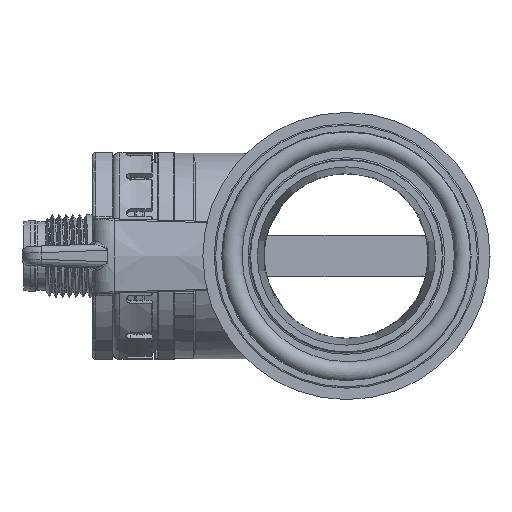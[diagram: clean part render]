
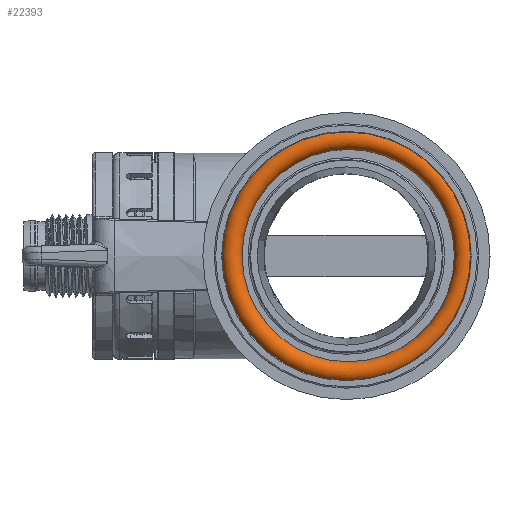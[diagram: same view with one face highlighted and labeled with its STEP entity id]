
A CAD part, left-side view. The second image highlights one B-rep face of the part: STEP entity #22393.
In plain terms, the highlighted toroidal (fillet/blend) face has major radius 17 mm and minor radius 1.5 mm.
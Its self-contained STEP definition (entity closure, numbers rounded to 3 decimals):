
#22393=ADVANCED_FACE('',(#23527),#23448,.T.);
#23448=TOROIDAL_SURFACE('',#25524,17.,1.5);
#23527=FACE_BOUND('',#23798,.T.);
#23798=VERTEX_LOOP('',#23802);
#23802=VERTEX_POINT('',#31662);
#25524=AXIS2_PLACEMENT_3D('',#31663,#27210,#27211);
#27210=DIRECTION('',(1.,0.,0.));
#27211=DIRECTION('',(0.,0.,-1.));
#31662=CARTESIAN_POINT('',(-68.99,-24.762,-18.442));
#31663=CARTESIAN_POINT('',(-68.99,-24.762,0.058));
